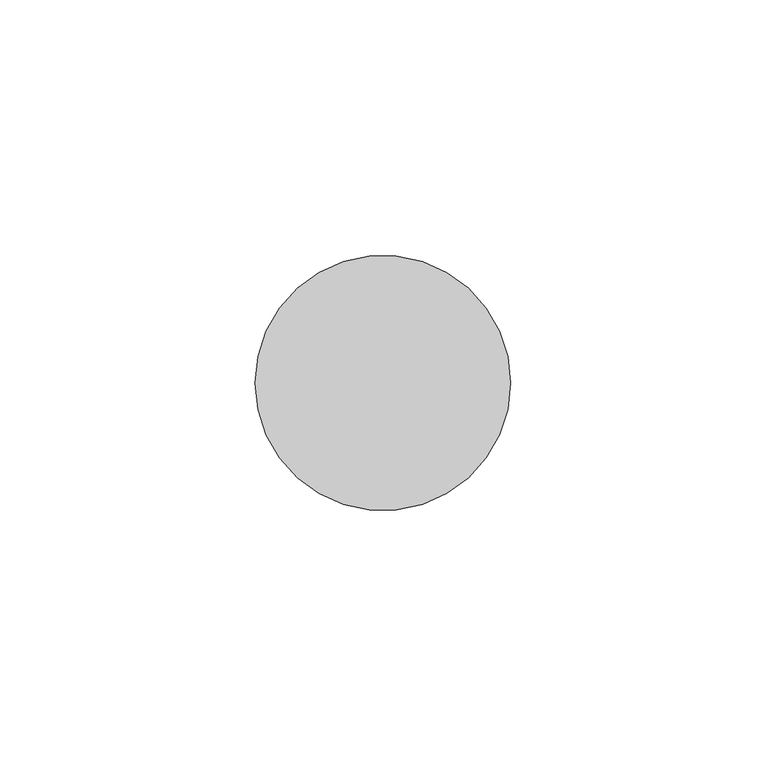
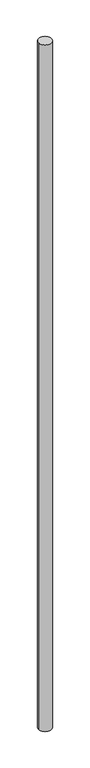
"""IFC4 building model written with IfcOpenShell, lengths in millimetres: member geometry, 圓形豎框 : 25mm 半徑."""

from ifc_helpers import new_model, si_unit, point, frame, origin, origin_2d, place, context, project, spatial, circle_curve, trimmed, segment, composite_curve, outline, extrude, source, transform, mapped, element, save


def member_37831322(model_context):
    return source(origin(), model_context, "Body", "SweptSolid", [
        extrude(outline(composite_curve([segment(trimmed(circle_curve(origin_2d(), 25.0), [point((25.0, 0.0))], [point((-25.0, 0.0))], False, "CARTESIAN"), True, "CONTINUOUS"), segment(trimmed(circle_curve(origin_2d(), 25.0), [point((-25.0, 0.0))], [point((25.0, 0.0))], False, "CARTESIAN"), True, "CONTINUOUS")], self_intersect=False)), frame((0.0, 0.0, -2800.0), z_axis=(0.0, 0.0, 1.0), x_axis=(1.0, 0.0, 0.0)), (0.0, 0.0, 1.0), 2800.0),
    ])


if __name__ == "__main__":
    model = new_model("IFC4")
    model_context = context("Model", 3, world=origin())
    ifc_project = project(units=[si_unit("LENGTHUNIT", "METRE", prefix="MILLI")], contexts=[model_context])
    site = spatial("IfcSite", under=ifc_project)
    building = spatial("IfcBuilding", under=site)
    placement = place(None, origin())
    member_shape = member_37831322(model_context)
    element("IfcMember", 1, ObjectType="圓形豎框 : 25mm 半徑", at=placement, inside=building, context=model_context, shape_type="MappedRepresentation", body=[
        mapped(member_shape, transform((0.0, 0.0, 0.0), x_axis=(1.0, 0.0, 0.0), y_axis=(0.0, 1.0, 0.0), z_axis=(0.0, 0.0, 1.0))),
    ])
    save(model, "model.ifc")
